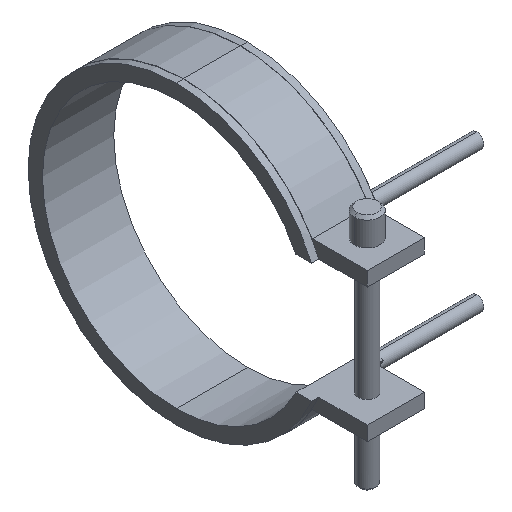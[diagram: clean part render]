
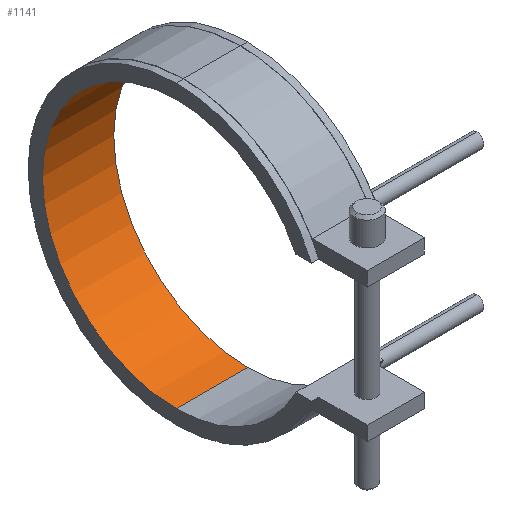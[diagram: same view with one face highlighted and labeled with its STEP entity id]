
A CAD part, isometric view. The second image highlights one B-rep face of the part: STEP entity #1141.
In plain terms, the highlighted cylindrical face has radius 37.5 mm (diameter 75 mm), a partial arc.
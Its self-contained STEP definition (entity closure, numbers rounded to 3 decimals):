
#822=CARTESIAN_POINT('Vertex',(-10.,0.,-37.5)) ;
#829=CARTESIAN_POINT('Vertex',(10.,0.,-37.5)) ;
#832=CARTESIAN_POINT('Line Origine',(10.,0.,-37.5)) ;
#850=CARTESIAN_POINT('Axis2P3D Location',(-10.,0.,0.)) ;
#854=CARTESIAN_POINT('Vertex',(-10.,0.,37.5)) ;
#911=CARTESIAN_POINT('Vertex',(10.,0.,37.5)) ;
#921=CARTESIAN_POINT('Line Origine',(10.,0.,37.5)) ;
#1012=CARTESIAN_POINT('Axis2P3D Location',(10.,0.,0.)) ;
#1130=CARTESIAN_POINT('Axis2P3D Location',(10.,0.,0.)) ;
#833=DIRECTION('Vector Direction',(1.,0.,0.)) ;
#851=DIRECTION('Axis2P3D Direction',(1.,0.,0.)) ;
#922=DIRECTION('Vector Direction',(1.,0.,0.)) ;
#1013=DIRECTION('Axis2P3D Direction',(1.,0.,0.)) ;
#1131=DIRECTION('Axis2P3D Direction',(1.,0.,-0.)) ;
#1132=DIRECTION('Axis2P3D XDirection',(0.,0.,-1.)) ;
#852=AXIS2_PLACEMENT_3D('Circle Axis2P3D',#850,#851,$) ;
#1014=AXIS2_PLACEMENT_3D('Circle Axis2P3D',#1012,#1013,$) ;
#1133=AXIS2_PLACEMENT_3D('Cylinder Axis2P3D',#1130,#1131,#1132) ;
#1136=ORIENTED_EDGE('',*,*,#1016,.T.) ;
#1137=ORIENTED_EDGE('',*,*,#925,.T.) ;
#1138=ORIENTED_EDGE('',*,*,#856,.F.) ;
#1139=ORIENTED_EDGE('',*,*,#836,.T.) ;
#834=VECTOR('Line Direction',#833,1.) ;
#923=VECTOR('Line Direction',#922,1.) ;
#1141=ADVANCED_FACE('14075020',(#1140),#1134,.F.) ;
#853=CIRCLE('generated circle',#852,37.5) ;
#1015=CIRCLE('generated circle',#1014,37.5) ;
#1134=CYLINDRICAL_SURFACE('generated cylinder',#1133,37.5) ;
#836=EDGE_CURVE('',#823,#830,#835,.T.) ;
#856=EDGE_CURVE('',#823,#855,#853,.T.) ;
#925=EDGE_CURVE('',#912,#855,#924,.F.) ;
#1016=EDGE_CURVE('',#830,#912,#1015,.T.) ;
#1135=EDGE_LOOP('',(#1136,#1137,#1138,#1139)) ;
#1140=FACE_OUTER_BOUND('',#1135,.T.) ;
#835=LINE('Line',#832,#834) ;
#924=LINE('Line',#921,#923) ;
#823=VERTEX_POINT('',#822) ;
#830=VERTEX_POINT('',#829) ;
#855=VERTEX_POINT('',#854) ;
#912=VERTEX_POINT('',#911) ;
